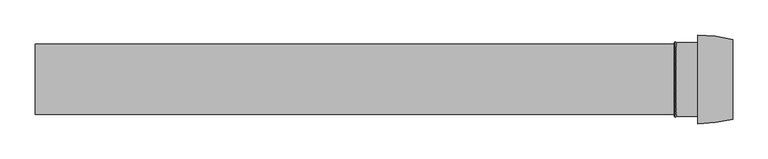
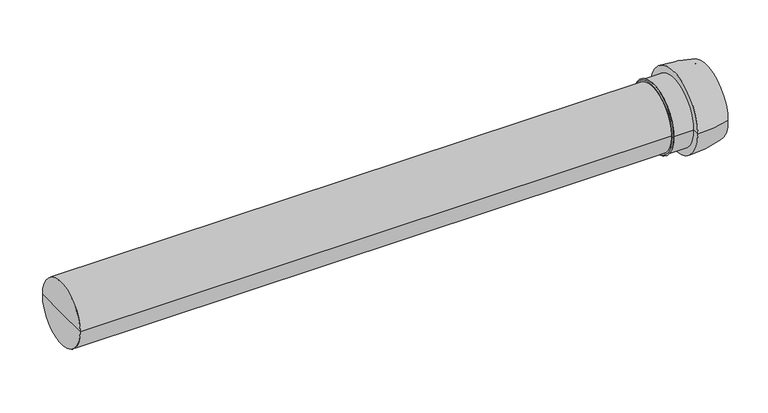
"""IFC4 building model written with IfcOpenShell, lengths in millimetres: duct segment geometry, NLRS_57_AIR_DUF_Easysafe verl pijp PP_M&G : Easysafe verlengpijp."""

from ifc_helpers import new_model, si_unit, point, frame, origin, place, context, project, spatial, polyline, circle_curve, ellipse_curve, trimmed, source, transform, mapped, element, save
from ifc_brep_helpers import plane_surface, cylinder_surface, revolved_surface, advanced_brep


def duct_segment_abc43e96(model_context):
    return source(origin(), model_context, "Body", "AdvancedBrep", [
        advanced_brep(
        [(0.0, 0.0, 0.0), (0.0, 50.0, 0.0), (0.0, -50.0, 0.0), (940.0, -63.0, 0.0), (940.0, 63.0, 0.0), (990.0, 56.6491673, 0.0), (990.0, -56.6491673, 0.0), (940.0, -52.5, 0.0), (940.0, 52.5, 0.0), (910.0, -52.5, 0.0), (910.0, 52.5, 0.0), (907.0, 50.0, 0.0), (907.0, -50.0, 0.0), (990.0, 50.0, 0.0), (990.0, -50.0, 0.0), (908.5, -54.0, 0.0), (908.5, 54.0, 0.0), (907.0, -52.5, 0.0), (907.0, 52.5, 0.0), (940.0, -50.0, 0.0), (940.0, 50.0, 0.0), (940.0, 0.0, 0.0)],
        [
            (0, 1),
            (1, 2, circle_curve(frame((0.0, 0.0, 0.0), z_axis=(-1.0, 0.0, 0.0), x_axis=(0.0, 1.0, 0.0)), 50.0)),
            (2, 0),
            (2, 1, circle_curve(frame((0.0, 0.0, 0.0), z_axis=(-1.0, 0.0, 0.0), x_axis=(0.0, 1.0, 0.0)), 50.0)),
            (3, 4, circle_curve(frame((940.0, 0.0, 0.0), z_axis=(1.0, 0.0, 0.0), x_axis=(0.0, 1.0, 0.0)), 63.0)),
            (4, 5, circle_curve(frame((940.0, -137.0, 0.0), z_axis=(0.0, 0.0, -1.0), x_axis=(1.0, 0.0, 0.0)), 200.0)),
            (5, 6, circle_curve(frame((990.0, 0.0, 0.0), z_axis=(-1.0, 0.0, 0.0), x_axis=(0.0, 1.0, 0.0)), 56.6491673)),
            (6, 3, circle_curve(frame((940.0, 137.0, 0.0), z_axis=(0.0, 0.0, -1.0), x_axis=(1.0, 0.0, 0.0)), 200.0)),
            (4, 3, circle_curve(frame((940.0, 0.0, 0.0), z_axis=(1.0, 0.0, 0.0), x_axis=(0.0, 1.0, 0.0)), 63.0)),
            (6, 5, circle_curve(frame((990.0, 0.0, 0.0), z_axis=(-1.0, 0.0, 0.0), x_axis=(0.0, 1.0, 0.0)), 56.6491673)),
            (7, 8, circle_curve(frame((940.0, 0.0, 0.0), z_axis=(1.0, 0.0, 0.0), x_axis=(0.0, 1.0, 0.0)), 52.5)),
            (8, 4),
            (3, 7),
            (8, 7, circle_curve(frame((940.0, 0.0, 0.0), z_axis=(1.0, 0.0, 0.0), x_axis=(0.0, 1.0, 0.0)), 52.5)),
            (9, 10, circle_curve(frame((910.0, 0.0, 0.0), z_axis=(1.0, 0.0, 0.0), x_axis=(0.0, 1.0, 0.0)), 52.5)),
            (10, 8),
            (7, 9),
            (10, 9, circle_curve(frame((910.0, 0.0, 0.0), z_axis=(1.0, 0.0, 0.0), x_axis=(0.0, 1.0, 0.0)), 52.5)),
            (1, 11),
            (11, 12, circle_curve(frame((907.0, 0.0, 0.0), z_axis=(-1.0, 0.0, 0.0), x_axis=(0.0, 1.0, 0.0)), 50.0)),
            (12, 2),
            (12, 11, circle_curve(frame((907.0, 0.0, 0.0), z_axis=(-1.0, 0.0, 0.0), x_axis=(0.0, 1.0, 0.0)), 50.0)),
            (5, 13),
            (13, 14, circle_curve(frame((990.0, 0.0, 0.0), z_axis=(-1.0, 0.0, 0.0), x_axis=(0.0, 1.0, 0.0)), 50.0)),
            (14, 6),
            (14, 13, circle_curve(frame((990.0, 0.0, 0.0), z_axis=(-1.0, 0.0, 0.0), x_axis=(0.0, 1.0, 0.0)), 50.0)),
            (15, 16, circle_curve(frame((908.5, 0.0, 0.0), z_axis=(1.0, 0.0, 0.0), x_axis=(0.0, 1.0, 0.0)), 54.0)),
            (16, 10),
            (9, 15),
            (16, 15, circle_curve(frame((908.5, 0.0, 0.0), z_axis=(1.0, 0.0, 0.0), x_axis=(0.0, 1.0, 0.0)), 54.0)),
            (17, 18, circle_curve(frame((907.0, 0.0, 0.0), z_axis=(1.0, 0.0, 0.0), x_axis=(0.0, 1.0, 0.0)), 52.5)),
            (18, 16),
            (15, 17),
            (18, 17, circle_curve(frame((907.0, 0.0, 0.0), z_axis=(1.0, 0.0, 0.0), x_axis=(0.0, 1.0, 0.0)), 52.5)),
            (11, 18),
            (17, 12),
            (19, 20, circle_curve(frame((940.0, 0.0, 0.0), z_axis=(1.0, 0.0, 0.0), x_axis=(0.0, 1.0, 0.0)), 50.0)),
            (20, 21),
            (21, 19),
            (20, 19, circle_curve(frame((940.0, 0.0, 0.0), z_axis=(1.0, 0.0, 0.0), x_axis=(0.0, 1.0, 0.0)), 50.0)),
            (13, 20),
            (19, 14),
        ],
        [
            plane_surface(frame((0.0, 0.0, 0.0), z_axis=(-1.0, 0.0, 0.0), x_axis=(0.0, 1.0, 0.0))),
            revolved_surface(trimmed(ellipse_curve(frame((940.0, -137.0, 0.0), z_axis=(0.0, 0.0, 1.0), x_axis=(1.0, 0.0, 0.0)), 200.0, 200.0), [point((990.0, 56.6491673, 0.0))], [point((940.0, 63.0, 0.0))], True, "CARTESIAN"), (-500.0, 0.0, 0.0), (-1.0, 0.0, 0.0)),
            plane_surface(frame((940.0, 0.0, 0.0), z_axis=(-1.0, 0.0, 0.0), x_axis=(0.0, 1.0, 0.0))),
            cylinder_surface(frame((-500.0, 0.0, 0.0), z_axis=(-1.0, 0.0, 0.0), x_axis=(0.0, 1.0, 0.0)), 52.5),
            cylinder_surface(frame((-500.0, 0.0, 0.0), z_axis=(-1.0, 0.0, 0.0), x_axis=(0.0, 1.0, 0.0)), 50.0),
            plane_surface(frame((990.0, 0.0, 0.0), z_axis=(1.0, 0.0, 0.0), x_axis=(0.0, 1.0, 0.0))),
            revolved_surface(polyline([(910.0, 52.5, 0.0), (908.5, 54.0, 0.0)]), (-500.0, 0.0, 0.0), (-1.0, 0.0, 0.0)),
            revolved_surface(polyline([(908.5, 54.0, 0.0), (907.0, 52.5, 0.0)]), (-500.0, 0.0, 0.0), (-1.0, 0.0, 0.0)),
            plane_surface(frame((907.0, 0.0, 0.0), z_axis=(-1.0, 0.0, 0.0), x_axis=(0.0, 1.0, 0.0))),
            plane_surface(frame((940.0, 0.0, 0.0), z_axis=(1.0, 0.0, 0.0), x_axis=(0.0, 1.0, 0.0))),
            revolved_surface(polyline([(940.0, 50.0, 0.0), (990.0, 50.0, 0.0)]), (-500.0, 0.0, 0.0), (-1.0, 0.0, 0.0)),
        ],
        [
            (0, [[1, 2, 3]]),
            (0, [[-3, 4, -1]]),
            (1, [[5, 6, 7, 8]]),
            (1, [[9, -8, 10, -6]]),
            (2, [[11, 12, -5, 13]]),
            (2, [[14, -13, -9, -12]]),
            (3, [[15, 16, -11, 17]]),
            (3, [[18, -17, -14, -16]]),
            (4, [[-2, 19, 20, 21]]),
            (4, [[-4, -21, 22, -19]]),
            (5, [[-7, 23, 24, 25]]),
            (5, [[-10, -25, 26, -23]]),
            (6, [[27, 28, -15, 29]]),
            (6, [[30, -29, -18, -28]]),
            (7, [[31, 32, -27, 33]]),
            (7, [[34, -33, -30, -32]]),
            (8, [[-20, 35, -31, 36]]),
            (8, [[-22, -36, -34, -35]]),
            (9, [[37, 38, 39]]),
            (9, [[40, -39, -38]]),
            (10, [[-24, 41, -37, 42]]),
            (10, [[-26, -42, -40, -41]]),
        ],
    ),
    ])


if __name__ == "__main__":
    model = new_model("IFC4")
    model_context = context("Model", 3, world=origin())
    ifc_project = project(units=[si_unit("LENGTHUNIT", "METRE", prefix="MILLI")], contexts=[model_context])
    site = spatial("IfcSite", under=ifc_project)
    building = spatial("IfcBuilding", under=site)
    placement = place(None, origin())
    duct_segment_shape = duct_segment_abc43e96(model_context)
    element("IfcDuctSegment", 1, ObjectType="NLRS_57_AIR_DUF_Easysafe verl pijp PP_M&G : Easysafe verlengpijp", at=placement, inside=building, context=model_context, shape_type="MappedRepresentation", body=[
        mapped(duct_segment_shape, transform((0.0, 0.0, 0.0), x_axis=(1.0, 0.0, 0.0), y_axis=(0.0, 1.0, 0.0), z_axis=(0.0, 0.0, 1.0))),
    ])
    save(model, "model.ifc")
